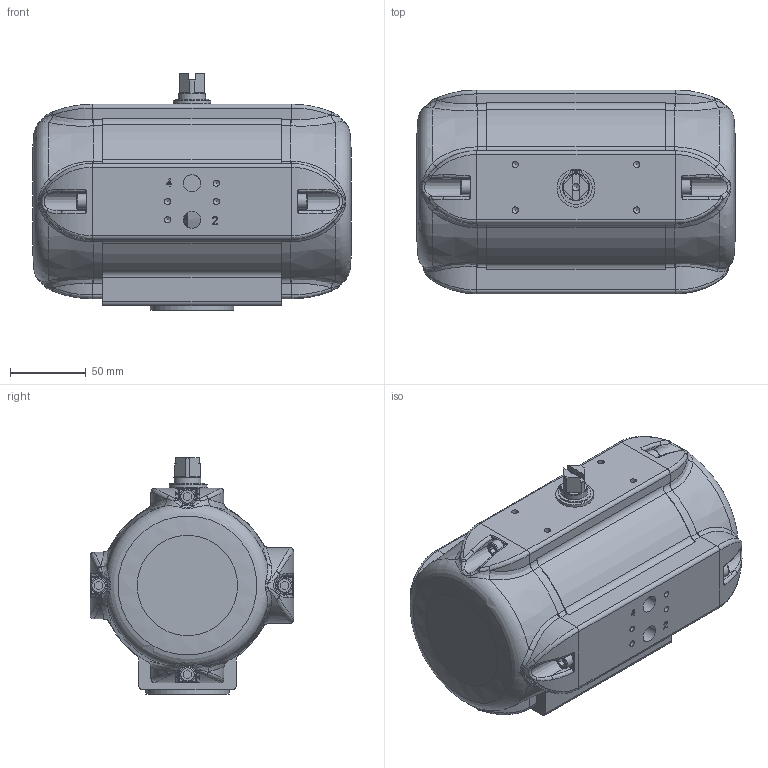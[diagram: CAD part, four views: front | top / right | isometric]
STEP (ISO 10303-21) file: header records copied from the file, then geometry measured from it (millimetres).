
FILE_DESCRIPTION(/* description */ (''),/* implementation_level */ '2;1');
FILE_NAME(/* name */ 'C:\Users\war\Desktop\BR03C_SAF_20.stp',/* time_stamp */ '2021-03-01T12:05:26+01:00',/* author */ ('war'),/* organization */ (''),/* preprocessor_version */ 'ST-DEVELOPER v18.1',/* originating_system */ 'Autodesk Inventor 2021',/* authorisation */ '');
FILE_SCHEMA (('AUTOMOTIVE_DESIGN { 1 0 10303 214 3 1 1 }'));
Products named in the file (1): ENG-052743_Shrinkwrap_1
Bounding box: 209.5 x 134 x 155.5 mm (x, y, z)
Volume: 1195609.5 mm3; surface area: 298545.6 mm2
Topology: 3 solids, 3 shells, 2066 faces, 5454 edges, 3348 vertices
Faces by surface type: cylinder 584, bspline 513, plane 473, torus 305, cone 115, sphere 76
Full cylindrical faces by diameter (mm): 1.7 x2, 4.134 x8, 4.917 x1, 5 x4, 6.647 x4, 10 x8, 11.445 x2, 14 x2, 16 x4, 16.3 x4, 16.7 x1, 16.8 x1, 17 x1, 17.8 x4, 18 x3, 18.1 x1, 19 x1, 20.4 x2, 23 x1, 25 x1, 28 x1, 28.5 x1, 31 x3, 34.8 x3, 35 x2, 55 x1, 96.4 x1, 100 x1, 102.5 x2, 103 x2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
Entity records: 88628 total; most frequent: CARTESIAN_POINT 39206, ORIENTED_EDGE 10654, DIRECTION 8985, EDGE_CURVE 5327, AXIS2_PLACEMENT_3D 3813, VERTEX_POINT 3348, EDGE_LOOP 2168, CIRCLE 2131
